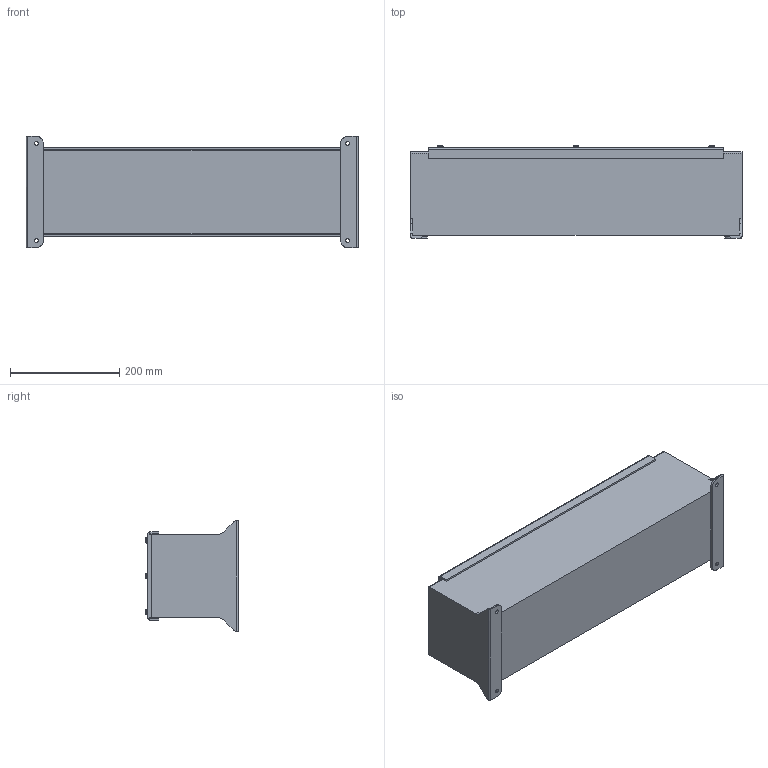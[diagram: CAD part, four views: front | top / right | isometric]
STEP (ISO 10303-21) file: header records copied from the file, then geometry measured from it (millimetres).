
FILE_DESCRIPTION((''),'1');
FILE_NAME('7','2001-04-18T',('jlue'),(''),'PRO/ENGINEER BY PARAMETRIC TECHNOLOGY CORPORATION, 9846','PRO/ENGINEER BY PARAMETRIC TECHNOLOGY CORPORATION, 9846','');
FILE_SCHEMA(('CONFIG_CONTROL_DESIGN'));
Length unit declared in the file: inch
Products named in the file (1): 7
Bounding box: 606.55 x 168.68 x 203.2 mm (x, y, z)
Surface area: 907537 mm2 (no closed solid volume)
Topology: 0 solids, 0 shells, 199 faces, 1086 edges, 1090 vertices
Faces by surface type: plane 113, cylinder 70, torus 16
Entity records: 6044 total; most frequent: CARTESIAN_POINT 1596, DIRECTION 1055, COMPOSITE_CURVE_SEGMENT 1034, TRIMMED_CURVE 477, AXIS2_PLACEMENT_3D 379, VECTOR 297, LINE 297, CURVE_BOUNDED_SURFACE 199
